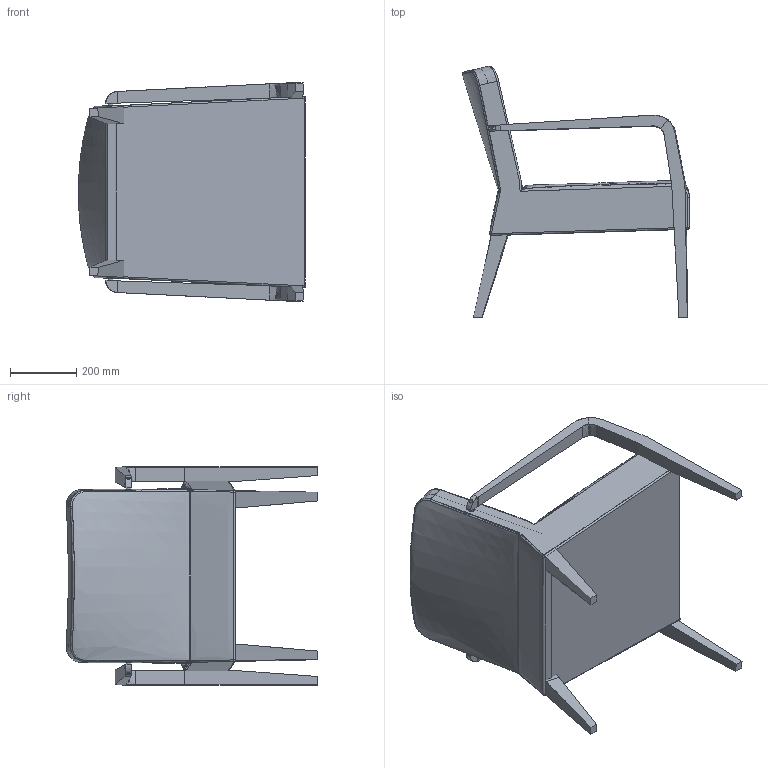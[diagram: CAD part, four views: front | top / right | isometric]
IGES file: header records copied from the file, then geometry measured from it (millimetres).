
Start section: SolidWorks IGES file using analytic representation for surfaces
Global section: file name: D:\DESENHOSSOLIDWORKS\Desenhos Tecnicos\Fabrica2\Cadeiras\Técnicos\CIBELLE\3d surfaces\Cibelle M621.IGS; native system: SolidWorks 2012; preprocessor: SolidWorks 2012; author: emanuel; date: 121029.112647; units: millimetre
Bounding box: 685.53 x 757.56 x 659.89 mm (x, y, z)
Surface area: 1870485.3 mm2 (no closed solid volume)
Topology: 0 solids, 0 shells, 109 faces, 2460 edges, 2460 vertices
Faces by surface type: bspline 93, revolution 16
